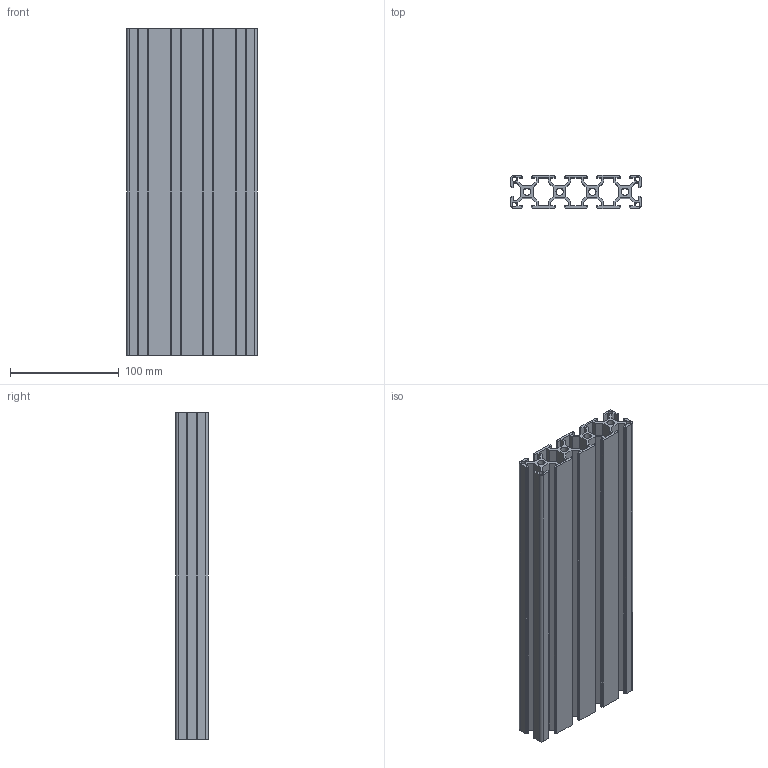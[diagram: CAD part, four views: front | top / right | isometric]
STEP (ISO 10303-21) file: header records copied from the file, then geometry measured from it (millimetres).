
FILE_DESCRIPTION (( 'STEP AP203' ), '1' );
FILE_NAME ('16-CE-30120-8.STEP', '2015-07-07T04:01:38', ( '' ), ( '' ), 'SwSTEP 2.0', 'SolidWorks 2013', '' );
FILE_SCHEMA (( 'CONFIG_CONTROL_DESIGN' ));
Length unit declared in the file: millimetre
Products named in the file (1): 16-CE-30120-8
Bounding box: 120 x 30 x 300 mm (x, y, z)
Volume: 334999.5 mm3; surface area: 293669.4 mm2
Topology: 1 solids, 1 shells, 202 faces, 600 edges, 400 vertices
Faces by surface type: plane 182, cylinder 20
Entity records: 6785 total; most frequent: CARTESIAN_POINT 1203, ORIENTED_EDGE 1200, DIRECTION 1046, EDGE_CURVE 600, VECTOR 560, LINE 560, VERTEX_POINT 400, AXIS2_PLACEMENT_3D 243
